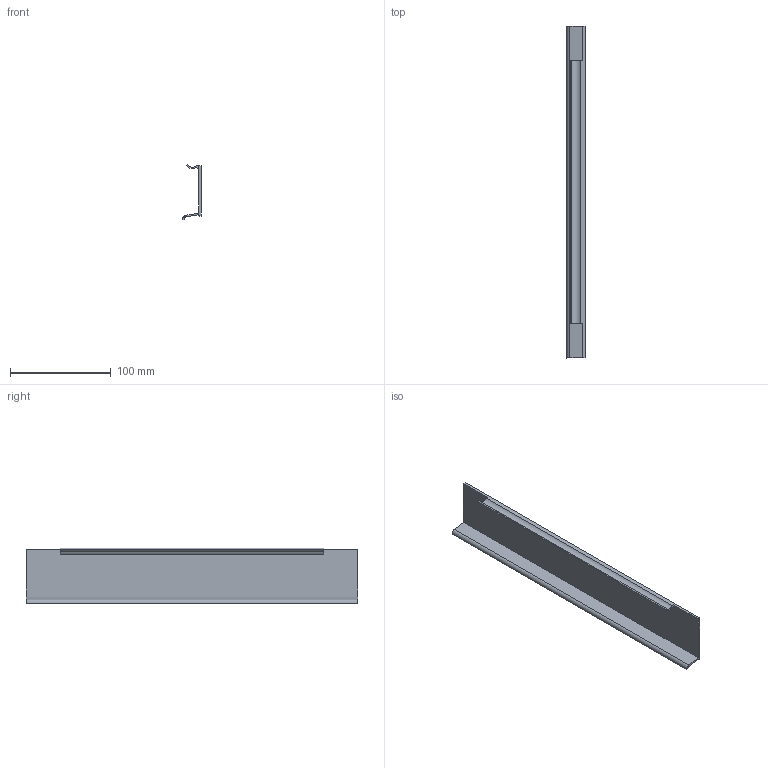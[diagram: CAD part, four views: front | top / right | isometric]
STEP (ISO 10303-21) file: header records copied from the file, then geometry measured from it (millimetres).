
FILE_DESCRIPTION (( 'STEP AP214' ), '1' );
FILE_NAME ('Sidecover_NL-350.step', '2010-09-21T06:52:12', ( 'grass' ), ( '' ), 'SwSTEP 2.0', 'SolidWorks 2010', '' );
FILE_SCHEMA (( 'AUTOMOTIVE_DESIGN' ));
Length unit declared in the file: millimetre
Products named in the file (1): Sidecover_NL-350
Bounding box: 18.14 x 329.5 x 54.9 mm (x, y, z)
Volume: 53667.9 mm3; surface area: 52476.6 mm2
Topology: 1 solids, 1 shells, 19 faces, 51 edges, 34 vertices
Faces by surface type: plane 14, cylinder 5
Entity records: 629 total; most frequent: CARTESIAN_POINT 105, ORIENTED_EDGE 102, DIRECTION 101, EDGE_CURVE 51, LINE 41, VECTOR 41, VERTEX_POINT 34, AXIS2_PLACEMENT_3D 30
